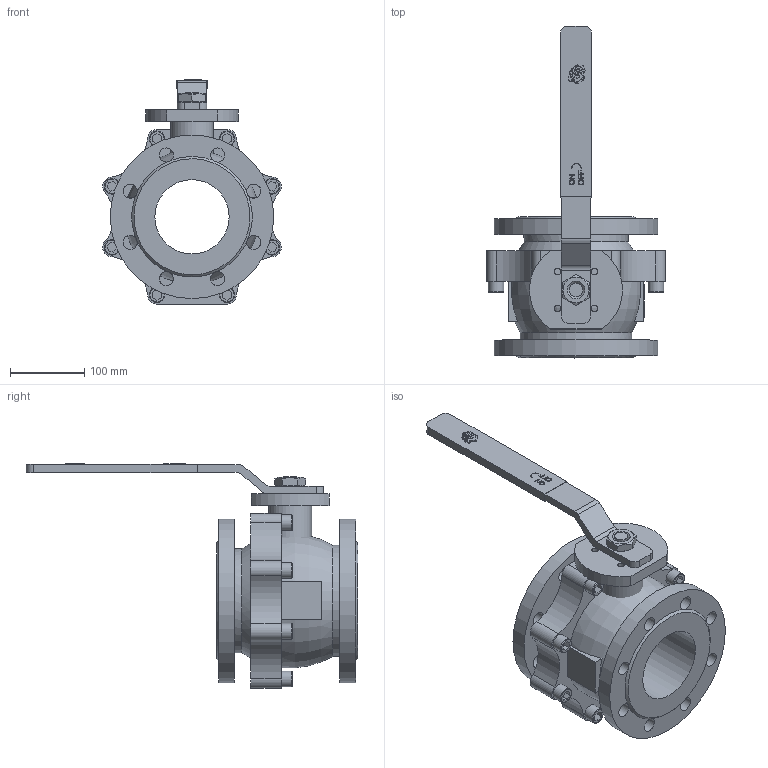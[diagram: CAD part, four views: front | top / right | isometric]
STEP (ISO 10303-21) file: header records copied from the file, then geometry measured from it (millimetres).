
FILE_DESCRIPTION(('STEP AP203'), '1');
FILE_NAME('3D_707-100-16', '', ('UNSPECIFIED'), ('UNSPECIFIED'), 'C3D Converter', 'C3D Toolkit', '');
FILE_SCHEMA(('CONFIG_CONTROL_DESIGN'));
Length unit declared in the file: millimetre
Bounding box: 240.41 x 446.12 x 301.7 mm (x, y, z)
Volume: 4592935.8 mm3; surface area: 449168.4 mm2
Topology: 38 solids, 38 shells, 3740 faces, 11039 edges, 7375 vertices
Faces by surface type: plane 3662, cylinder 62, torus 10, cone 6
Full cylindrical faces by diameter (mm): 9 x4, 18 x1, 18.088 x1, 19 x16, 21 x8, 58 x1, 100 x1, 140 x1, 150 x1, 220 x2
Entity records: 153955 total; most frequent: CARTESIAN_POINT 23741, ORIENTED_EDGE 21972, DIRECTION 18670, EDGE_CURVE 10986, LINE 10716, VECTOR 10716, VERTEX_POINT 7374, AXIS2_PLACEMENT_3D 3977
